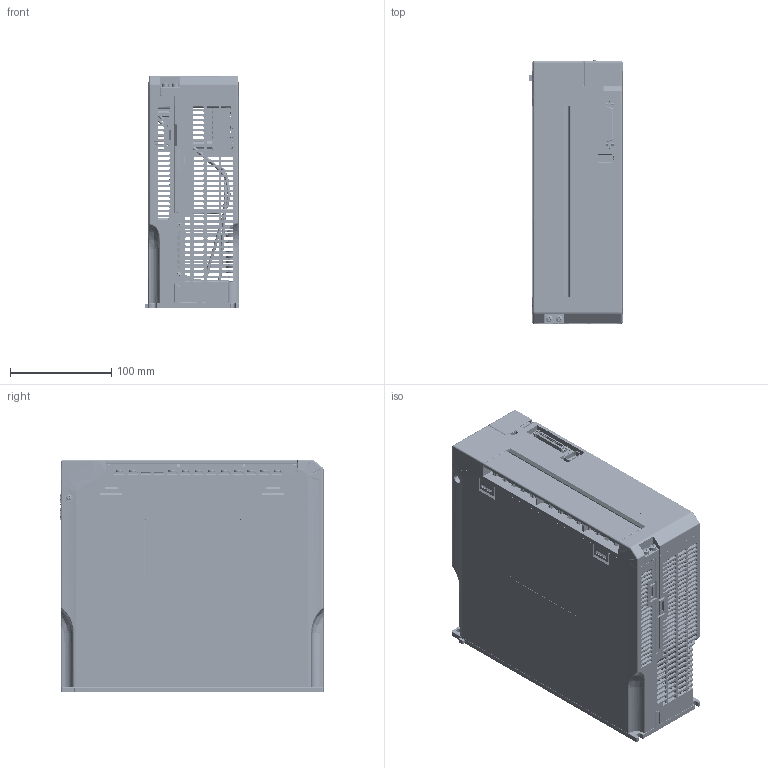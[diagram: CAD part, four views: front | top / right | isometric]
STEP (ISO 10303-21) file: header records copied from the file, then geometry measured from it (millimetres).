
FILE_DESCRIPTION (( 'STEP AP203' ), '1' );
FILE_NAME ('400VAC ,Rated power:5kW~7.5KW CanOPEN2.STEP', '2024-09-12T09:17:47', ( '' ), ( '' ), 'SwSTEP 2.0', 'SolidWorks 2022', '' );
FILE_SCHEMA (( 'CONFIG_CONTROL_DESIGN' ));
Products named in the file (1): 400VAC ，Rated power：5kW~7.5KW CanOPEN2
Bounding box: 93 x 260.3 x 230.01 mm (x, y, z)
Surface area: 618033.2 mm2 (no closed solid volume)
Topology: 0 solids, 89 shells, 14445 faces, 39818 edges, 25582 vertices
Faces by surface type: plane 9434, cylinder 3057, bspline 1537, cone 298, torus 91, sphere 28
Entity records: 508230 total; most frequent: CARTESIAN_POINT 159410, ORIENTED_EDGE 79060, DIRECTION 62338, EDGE_CURVE 39549, VECTOR 26850, LINE 26850, VERTEX_POINT 25580, AXIS2_PLACEMENT_3D 17744
